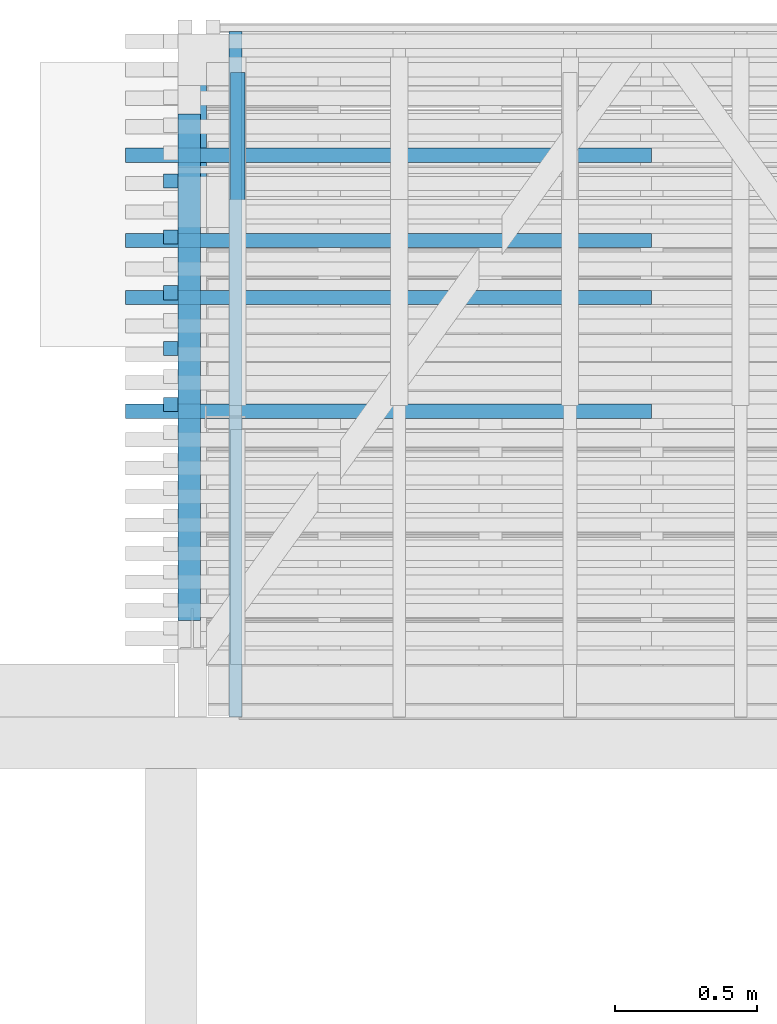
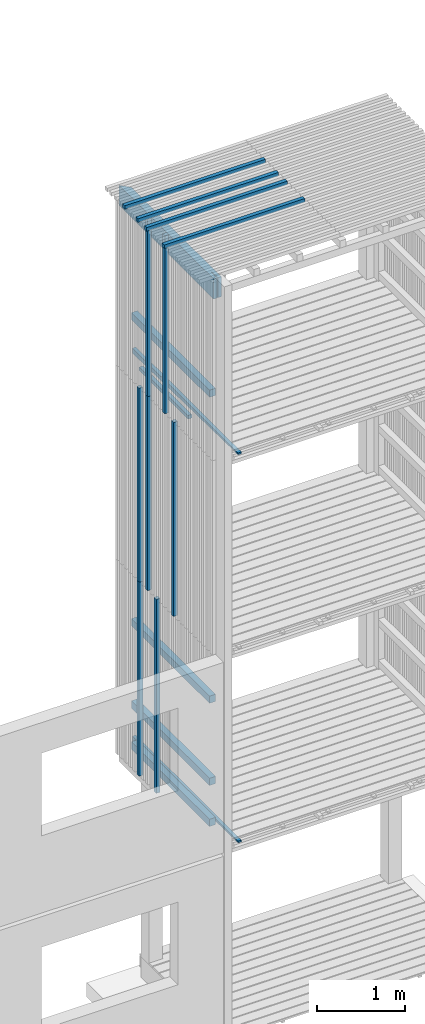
# One storey, part 39 of 182: 19 beams.
"""IFC2X3 building model written with IfcOpenShell, lengths in metres."""

from ifc_helpers import new_model, si_unit, frame, origin, place, context, project, spatial, faceted_brep, element, save


model = new_model("IFC2X3")

# Units and contexts
model_context = context("Model", 3, precision=1e-06, world=origin())
ifc_project = project(units=[si_unit("LENGTHUNIT", "METRE"), si_unit("PLANEANGLEUNIT", "RADIAN")], contexts=[model_context])

# Site, building, storey
site = spatial("IfcSite", under=ifc_project, CompositionType="ELEMENT")
building = spatial("IfcBuilding", under=site, CompositionType="ELEMENT")
storey = spatial("IfcBuildingStorey", under=building, Name="vs", CompositionType="ELEMENT", Elevation=-0.85)

# Beams
placement = place(None, origin())
beam_1_placement = place(placement, frame((13.364197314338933, 10.810077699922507, 8.80124999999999), z_axis=(0.0, 0.0, 1.0), x_axis=(0.0, 1.0, 0.0)))
element("IfcBeam", 1, at=beam_1_placement, inside=storey, Name="Support bardage", context=model_context, shape_type="Brep", body=[
    faceted_brep([(1.779999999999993, 0.039999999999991, -0.050000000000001), (1.779999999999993, 0.039999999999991, 0.050000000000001), (1.779999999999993, -0.040000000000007, 0.050000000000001), (1.779999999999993, -0.040000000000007, -0.050000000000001), (1.779999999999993, -0.040000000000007, 0.050000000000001), (1.779999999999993, 0.039999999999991, 0.050000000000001), (-4e-15, 0.039999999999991, 0.050000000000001), (-4e-15, -0.040000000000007, 0.050000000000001), (-4e-15, 0.039999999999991, 0.050000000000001), (1.779999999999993, 0.039999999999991, 0.050000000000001), (1.779999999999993, 0.039999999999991, -0.050000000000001), (-4e-15, 0.039999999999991, -0.050000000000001), (1.779999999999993, -0.040000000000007, -0.050000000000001), (1.779999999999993, -0.040000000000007, 0.050000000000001), (-4e-15, -0.040000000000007, 0.050000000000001), (-4e-15, -0.040000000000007, -0.050000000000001), (-4e-15, 0.039999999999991, -0.050000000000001), (1.779999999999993, 0.039999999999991, -0.050000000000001), (1.779999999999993, -0.040000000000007, -0.050000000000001), (-4e-15, -0.040000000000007, -0.050000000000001), (-4e-15, 0.039999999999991, 0.050000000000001), (-4e-15, 0.039999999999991, -0.050000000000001), (-4e-15, -0.040000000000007, -0.050000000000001), (-4e-15, -0.040000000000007, 0.050000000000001)], [[[0, 1, 2, 3]], [[4, 5, 6, 7]], [[8, 9, 10, 11]], [[12, 13, 14, 15]], [[16, 17, 18, 19]], [[20, 21, 22, 23]]]),
])
beam_2_placement = place(placement, frame((13.299197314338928, 12.354168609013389, 5.274999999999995), z_axis=(1.0, 0.0, 0.0), x_axis=(0.0, 0.0, 1.0)))
element("IfcBeam", 2, at=beam_2_placement, inside=storey, Name="Bardage", context=model_context, shape_type="Brep", body=[
    faceted_brep([(2.699999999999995, 0.025000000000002, 0.025000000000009), (2.699999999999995, -0.024999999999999, 0.025000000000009), (2.699999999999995, -0.024999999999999, -0.025000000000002), (2.699999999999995, 0.025000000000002, -0.025000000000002), (1e-15, 0.025000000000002, 0.025000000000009), (2.699999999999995, 0.025000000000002, 0.025000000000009), (2.699999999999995, 0.025000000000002, -0.025000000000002), (1e-15, 0.025000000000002, -0.025000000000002), (1e-15, -0.024999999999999, 0.025000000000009), (1e-15, 0.025000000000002, 0.025000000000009), (1e-15, 0.025000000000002, -0.025000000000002), (1e-15, -0.024999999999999, -0.025000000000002), (1e-15, 0.025000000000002, 0.025000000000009), (1e-15, -0.024999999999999, 0.025000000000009), (2.699999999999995, -0.024999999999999, 0.025000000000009), (2.699999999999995, 0.025000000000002, 0.025000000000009), (1e-15, -0.024999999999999, 0.025000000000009), (1e-15, -0.024999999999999, -0.025000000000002), (2.699999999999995, -0.024999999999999, -0.025000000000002), (2.699999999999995, -0.024999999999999, 0.025000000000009), (1e-15, -0.024999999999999, -0.025000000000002), (1e-15, 0.025000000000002, -0.025000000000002), (2.699999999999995, 0.025000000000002, -0.025000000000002), (2.699999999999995, -0.024999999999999, -0.025000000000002)], [[[0, 1, 2, 3]], [[4, 5, 6, 7]], [[8, 9, 10, 11]], [[12, 13, 14, 15]], [[16, 17, 18, 19]], [[20, 21, 22, 23]]]),
])
beam_3_placement = place(placement, frame((14.989197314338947, 12.145077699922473, 10.47999999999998), z_axis=(0.0, 0.0, 1.0), x_axis=(-1.0, 0.0, 0.0)))
element("IfcBeam", 3, at=beam_3_placement, inside=storey, Name="Bardage", context=model_context, shape_type="Brep", body=[
    faceted_brep([(1.850000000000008, -0.024999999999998, -0.024999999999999), (1.850000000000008, -0.024999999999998, 0.025000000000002), (-1e-15, -0.025000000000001, 0.025000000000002), (-1e-15, -0.025000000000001, -0.024999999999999), (1.850000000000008, -0.024999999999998, 0.025000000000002), (1.850000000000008, -0.024999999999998, -0.024999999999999), (1.850000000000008, 0.024999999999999, -0.024999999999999), (1.850000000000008, 0.024999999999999, 0.025000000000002), (1.850000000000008, 0.024999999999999, -0.024999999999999), (1.850000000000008, -0.024999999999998, -0.024999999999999), (-1e-15, -0.025000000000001, -0.024999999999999), (-1e-15, 0.024999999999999, -0.024999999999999), (1.850000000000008, 0.024999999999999, 0.025000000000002), (1.850000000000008, 0.024999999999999, -0.024999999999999), (-1e-15, 0.024999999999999, -0.024999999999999), (-1e-15, 0.024999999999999, 0.025000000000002), (-1e-15, -0.025000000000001, 0.025000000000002), (1.850000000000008, -0.024999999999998, 0.025000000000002), (1.850000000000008, 0.024999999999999, 0.025000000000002), (-1e-15, 0.024999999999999, 0.025000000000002), (-1e-15, -0.025000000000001, -0.024999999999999), (-1e-15, -0.025000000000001, 0.025000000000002), (-1e-15, 0.024999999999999, 0.025000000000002), (-1e-15, 0.024999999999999, -0.024999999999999)], [[[0, 1, 2, 3]], [[4, 5, 6, 7]], [[8, 9, 10, 11]], [[12, 13, 14, 15]], [[16, 17, 18, 19]], [[20, 21, 22, 23]]]),
])
beam_4_placement = place(placement, frame((14.989197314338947, 11.945077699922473, 10.47999999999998), z_axis=(0.0, 0.0, 1.0), x_axis=(-1.0, 0.0, 0.0)))
element("IfcBeam", 4, at=beam_4_placement, inside=storey, Name="Bardage", context=model_context, shape_type="Brep", body=[
    faceted_brep([(1.850000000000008, -0.025000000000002, -0.024999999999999), (1.850000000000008, -0.025000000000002, 0.025000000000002), (-1e-15, -0.025000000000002, 0.025000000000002), (-1e-15, -0.025000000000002, -0.024999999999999), (1.850000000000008, -0.025000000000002, 0.025000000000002), (1.850000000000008, -0.025000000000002, -0.024999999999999), (1.850000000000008, 0.025000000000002, -0.024999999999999), (1.850000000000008, 0.025000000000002, 0.025000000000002), (1.850000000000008, 0.025000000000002, -0.024999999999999), (1.850000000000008, -0.025000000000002, -0.024999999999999), (-1e-15, -0.025000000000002, -0.024999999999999), (-1e-15, 0.024999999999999, -0.024999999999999), (1.850000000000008, 0.025000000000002, 0.025000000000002), (1.850000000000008, 0.025000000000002, -0.024999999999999), (-1e-15, 0.024999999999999, -0.024999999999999), (-1e-15, 0.024999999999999, 0.025000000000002), (-1e-15, -0.025000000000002, 0.025000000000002), (1.850000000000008, -0.025000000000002, 0.025000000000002), (1.850000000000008, 0.025000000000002, 0.025000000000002), (-1e-15, 0.024999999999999, 0.025000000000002), (-1e-15, -0.025000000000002, -0.024999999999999), (-1e-15, -0.025000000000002, 0.025000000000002), (-1e-15, 0.024999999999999, 0.025000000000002), (-1e-15, 0.024999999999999, -0.024999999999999)], [[[0, 1, 2, 3]], [[4, 5, 6, 7]], [[8, 9, 10, 11]], [[12, 13, 14, 15]], [[16, 17, 18, 19]], [[20, 21, 22, 23]]]),
])
beam_5_placement = place(placement, frame((14.989197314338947, 11.545077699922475, 10.47999999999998), z_axis=(0.0, 0.0, 1.0), x_axis=(-1.0, -2e-15, 0.0)))
element("IfcBeam", 5, at=beam_5_placement, inside=storey, Name="Bardage", context=model_context, shape_type="Brep", body=[
    faceted_brep([(1.850000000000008, -0.025000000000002, -0.024999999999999), (1.850000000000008, -0.025000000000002, 0.025000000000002), (-1e-15, -0.024999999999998, 0.025000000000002), (-1e-15, -0.024999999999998, -0.024999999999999), (1.850000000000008, -0.025000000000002, 0.025000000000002), (1.850000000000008, -0.025000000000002, -0.024999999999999), (1.850000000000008, 0.024999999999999, -0.024999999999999), (1.850000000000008, 0.024999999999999, 0.025000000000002), (1.850000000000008, 0.024999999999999, -0.024999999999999), (1.850000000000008, -0.025000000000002, -0.024999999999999), (-1e-15, -0.024999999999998, -0.024999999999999), (0.0, 0.025000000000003, -0.024999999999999), (1.850000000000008, 0.024999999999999, 0.025000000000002), (1.850000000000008, 0.024999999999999, -0.024999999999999), (0.0, 0.025000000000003, -0.024999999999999), (0.0, 0.025000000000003, 0.025000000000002), (-1e-15, -0.024999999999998, 0.025000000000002), (1.850000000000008, -0.025000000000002, 0.025000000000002), (1.850000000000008, 0.024999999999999, 0.025000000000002), (0.0, 0.025000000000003, 0.025000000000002), (-1e-15, -0.024999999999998, -0.024999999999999), (-1e-15, -0.024999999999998, 0.025000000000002), (0.0, 0.025000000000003, 0.025000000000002), (0.0, 0.025000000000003, -0.024999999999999)], [[[0, 1, 2, 3]], [[4, 5, 6, 7]], [[8, 9, 10, 11]], [[12, 13, 14, 15]], [[16, 17, 18, 19]], [[20, 21, 22, 23]]]),
])
beam_6_placement = place(placement, frame((13.364197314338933, 10.810077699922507, 4.543749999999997), z_axis=(0.0, 0.0, 1.0), x_axis=(0.0, 1.0, 0.0)))
element("IfcBeam", 6, at=beam_6_placement, inside=storey, Name="Support bardage", context=model_context, shape_type="Brep", body=[
    faceted_brep([(1.779999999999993, 0.039999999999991, -0.050000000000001), (1.779999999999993, 0.039999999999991, 0.050000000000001), (1.779999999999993, -0.040000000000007, 0.050000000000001), (1.779999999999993, -0.040000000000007, -0.050000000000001), (1.779999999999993, -0.040000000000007, 0.050000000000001), (1.779999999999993, 0.039999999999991, 0.050000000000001), (-4e-15, 0.039999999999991, 0.050000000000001), (-4e-15, -0.040000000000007, 0.050000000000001), (-4e-15, 0.039999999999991, 0.050000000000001), (1.779999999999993, 0.039999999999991, 0.050000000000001), (1.779999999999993, 0.039999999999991, -0.050000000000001), (-4e-15, 0.039999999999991, -0.050000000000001), (1.779999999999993, -0.040000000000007, -0.050000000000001), (1.779999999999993, -0.040000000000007, 0.050000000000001), (-4e-15, -0.040000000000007, 0.050000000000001), (-4e-15, -0.040000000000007, -0.050000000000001), (-4e-15, 0.039999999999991, -0.050000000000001), (1.779999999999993, 0.039999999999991, -0.050000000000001), (1.779999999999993, -0.040000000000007, -0.050000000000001), (-4e-15, -0.040000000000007, -0.050000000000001), (-4e-15, 0.039999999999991, 0.050000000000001), (-4e-15, 0.039999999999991, -0.050000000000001), (-4e-15, -0.040000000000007, -0.050000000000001), (-4e-15, -0.040000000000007, 0.050000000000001)], [[[0, 1, 2, 3]], [[4, 5, 6, 7]], [[8, 9, 10, 11]], [[12, 13, 14, 15]], [[16, 17, 18, 19]], [[20, 21, 22, 23]]]),
])
beam_7_placement = place(placement, frame((13.534197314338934, 12.735077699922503, 7.91739999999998), z_axis=(0.0, 0.0, 1.0), x_axis=(0.0, -1.0, 0.0)))
element("IfcBeam", 7, at=beam_7_placement, inside=storey, Name="Calage", context=model_context, shape_type="Brep", body=[
    faceted_brep([(2e-15, 0.025000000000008, -0.025), (2e-15, -0.024999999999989, -0.025), (2e-15, -0.024999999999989, 0.024999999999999), (2e-15, 0.025000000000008, 0.024999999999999), (1.115000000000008, -0.024999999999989, 0.024999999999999), (1.115000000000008, -0.024999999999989, -0.025), (1.115000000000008, 0.025000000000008, -0.025), (1.115000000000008, 0.025000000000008, 0.024999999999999), (2e-15, -0.024999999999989, 0.024999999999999), (2e-15, -0.024999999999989, -0.025), (1.115000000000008, -0.024999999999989, -0.025), (1.115000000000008, -0.024999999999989, 0.024999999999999), (1.115000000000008, -0.024999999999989, -0.025), (2e-15, -0.024999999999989, -0.025), (2e-15, 0.025000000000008, -0.025), (1.115000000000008, 0.025000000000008, -0.025), (1.115000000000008, 0.025000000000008, -0.025), (2e-15, 0.025000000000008, -0.025), (2e-15, 0.025000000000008, 0.024999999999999), (1.115000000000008, 0.025000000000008, 0.024999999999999), (1.115000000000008, 0.025000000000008, 0.024999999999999), (2e-15, 0.025000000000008, 0.024999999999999), (2e-15, -0.024999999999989, 0.024999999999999), (1.115000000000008, -0.024999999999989, 0.024999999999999)], [[[0, 1, 2, 3]], [[4, 5, 6, 7]], [[8, 9, 10, 11]], [[12, 13, 14, 15]], [[16, 17, 18, 19]], [[20, 21, 22, 23]]]),
])
beam_8_placement = place(placement, frame((13.526697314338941, 10.4700776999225, 8.084400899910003), z_axis=(0.0, 0.0, 1.0), x_axis=(0.0, 1.0, 0.0)))
element("IfcBeam", 8, at=beam_8_placement, inside=storey, Name="Calage", context=model_context, shape_type="Brep", body=[
    faceted_brep([(2.41000000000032, -0.022499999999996, -0.035599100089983), (0.0, -0.022499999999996, 0.012600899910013), (0.0, 0.022500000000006, 0.012600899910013), (2.41000000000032, 0.022500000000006, -0.035599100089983), (0.0, 0.022500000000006, 0.035599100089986), (0.0, 0.022500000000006, 0.012600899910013), (0.0, -0.022499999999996, 0.012600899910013), (0.0, -0.022499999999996, 0.035599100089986), (2.41000000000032, 0.022500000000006, -0.035599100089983), (0.0, 0.022500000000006, 0.012600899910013), (0.0, 0.022500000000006, 0.035599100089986), (2.41000000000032, 0.022500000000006, 0.035599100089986), (2.41000000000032, -0.022499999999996, 0.035599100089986), (0.0, -0.022499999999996, 0.035599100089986), (0.0, -0.022499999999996, 0.012600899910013), (2.41000000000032, -0.022499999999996, -0.035599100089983), (2.41000000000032, 0.022500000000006, 0.035599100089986), (0.0, 0.022500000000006, 0.035599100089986), (0.0, -0.022499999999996, 0.035599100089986), (2.41000000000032, -0.022499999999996, 0.035599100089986), (2.41000000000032, 0.022500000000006, -0.035599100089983), (2.41000000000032, 0.022500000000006, 0.035599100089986), (2.41000000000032, -0.022499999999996, 0.035599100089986), (2.41000000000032, -0.022499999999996, -0.035599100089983)], [[[0, 1, 2, 3]], [[4, 5, 6, 7]], [[8, 9, 10, 11]], [[12, 13, 14, 15]], [[16, 17, 18, 19]], [[20, 21, 22, 23]]]),
])
beam_9_placement = place(placement, frame((13.364197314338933, 10.810077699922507, 3.401250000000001), z_axis=(0.0, 0.0, 1.0), x_axis=(0.0, 1.0, 0.0)))
element("IfcBeam", 9, at=beam_9_placement, inside=storey, Name="Support bardage", context=model_context, shape_type="Brep", body=[
    faceted_brep([(1.779999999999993, 0.039999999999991, -0.050000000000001), (1.779999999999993, 0.039999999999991, 0.05), (1.779999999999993, -0.040000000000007, 0.05), (1.779999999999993, -0.040000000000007, -0.050000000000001), (1.779999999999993, -0.040000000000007, 0.05), (1.779999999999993, 0.039999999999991, 0.05), (-4e-15, 0.039999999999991, 0.05), (-4e-15, -0.040000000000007, 0.05), (-4e-15, 0.039999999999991, 0.05), (1.779999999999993, 0.039999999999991, 0.05), (1.779999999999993, 0.039999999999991, -0.050000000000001), (-4e-15, 0.039999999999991, -0.050000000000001), (1.779999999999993, -0.040000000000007, -0.050000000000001), (1.779999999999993, -0.040000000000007, 0.05), (-4e-15, -0.040000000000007, 0.05), (-4e-15, -0.040000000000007, -0.050000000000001), (-4e-15, 0.039999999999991, -0.050000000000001), (1.779999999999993, 0.039999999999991, -0.050000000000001), (1.779999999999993, -0.040000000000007, -0.050000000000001), (-4e-15, -0.040000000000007, -0.050000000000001), (-4e-15, 0.039999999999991, 0.05), (-4e-15, 0.039999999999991, -0.050000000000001), (-4e-15, -0.040000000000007, -0.050000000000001), (-4e-15, -0.040000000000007, 0.05)], [[[0, 1, 2, 3]], [[4, 5, 6, 7]], [[8, 9, 10, 11]], [[12, 13, 14, 15]], [[16, 17, 18, 19]], [[20, 21, 22, 23]]]),
])
beam_10_placement = place(placement, frame((14.989197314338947, 12.445077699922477, 10.47999999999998), z_axis=(0.0, 0.0, 1.0), x_axis=(-1.0, -2e-15, 0.0)))
element("IfcBeam", 10, at=beam_10_placement, inside=storey, Name="Bardage", context=model_context, shape_type="Brep", body=[
    faceted_brep([(1.850000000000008, -0.025000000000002, -0.024999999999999), (1.850000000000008, -0.025000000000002, 0.025000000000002), (-1e-15, -0.024999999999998, 0.025000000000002), (-1e-15, -0.024999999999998, -0.024999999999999), (1.850000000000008, -0.025000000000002, 0.025000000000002), (1.850000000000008, -0.025000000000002, -0.024999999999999), (1.850000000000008, 0.025000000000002, -0.024999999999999), (1.850000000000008, 0.025000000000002, 0.025000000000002), (1.850000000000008, 0.025000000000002, -0.024999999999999), (1.850000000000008, -0.025000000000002, -0.024999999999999), (-1e-15, -0.024999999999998, -0.024999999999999), (0.0, 0.025000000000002, -0.024999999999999), (1.850000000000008, 0.025000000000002, 0.025000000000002), (1.850000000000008, 0.025000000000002, -0.024999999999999), (0.0, 0.025000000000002, -0.024999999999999), (0.0, 0.025000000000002, 0.025000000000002), (-1e-15, -0.024999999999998, 0.025000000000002), (1.850000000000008, -0.025000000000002, 0.025000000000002), (1.850000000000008, 0.025000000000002, 0.025000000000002), (0.0, 0.025000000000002, 0.025000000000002), (-1e-15, -0.024999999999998, -0.024999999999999), (-1e-15, -0.024999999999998, 0.025000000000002), (0.0, 0.025000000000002, 0.025000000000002), (0.0, 0.025000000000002, -0.024999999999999)], [[[0, 1, 2, 3]], [[4, 5, 6, 7]], [[8, 9, 10, 11]], [[12, 13, 14, 15]], [[16, 17, 18, 19]], [[20, 21, 22, 23]]]),
])
beam_11_placement = place(placement, frame((13.299197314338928, 11.96144133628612, 2.575000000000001), z_axis=(1.0, 0.0, 0.0), x_axis=(0.0, 0.0, 1.0)))
element("IfcBeam", 11, at=beam_11_placement, inside=storey, Name="Bardage", context=model_context, shape_type="Brep", body=[
    faceted_brep([(2.699961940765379, -0.024999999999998, 0.025000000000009), (2.699961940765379, -0.024999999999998, -0.025000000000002), (2.699961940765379, 0.024999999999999, -0.025000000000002), (2.699961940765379, 0.024999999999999, 0.025000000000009), (0.0, -0.024999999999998, 0.025000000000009), (2.699961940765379, -0.024999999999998, 0.025000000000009), (2.699961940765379, 0.024999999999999, 0.025000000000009), (0.0, 0.024999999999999, 0.025000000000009), (0.0, -0.024999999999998, 0.025000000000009), (0.0, 0.024999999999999, 0.025000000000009), (0.0, 0.024999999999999, -0.025000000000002), (0.0, -0.024999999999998, -0.025000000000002), (0.0, -0.024999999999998, 0.025000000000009), (0.0, -0.024999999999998, -0.025000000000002), (2.699961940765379, -0.024999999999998, -0.025000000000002), (2.699961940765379, -0.024999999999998, 0.025000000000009), (0.0, -0.024999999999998, -0.025000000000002), (0.0, 0.024999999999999, -0.025000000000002), (2.699961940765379, 0.024999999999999, -0.025000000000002), (2.699961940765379, -0.024999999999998, -0.025000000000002), (0.0, 0.024999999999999, -0.025000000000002), (0.0, 0.024999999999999, 0.025000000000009), (2.699961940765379, 0.024999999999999, 0.025000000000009), (2.699961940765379, 0.024999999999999, -0.025000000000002)], [[[0, 1, 2, 3]], [[4, 5, 6, 7]], [[8, 9, 10, 11]], [[12, 13, 14, 15]], [[16, 17, 18, 19]], [[20, 21, 22, 23]]]),
])
beam_12_placement = place(placement, frame((13.299197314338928, 12.157804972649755, 5.274999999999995), z_axis=(1.0, 0.0, 0.0), x_axis=(0.0, 0.0, 1.0)))
element("IfcBeam", 12, at=beam_12_placement, inside=storey, Name="Bardage", context=model_context, shape_type="Brep", body=[
    faceted_brep([(2.699999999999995, 0.024999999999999, 0.025000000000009), (2.699999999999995, -0.024999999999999, 0.025000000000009), (2.699999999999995, -0.024999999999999, -0.025000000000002), (2.699999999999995, 0.024999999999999, -0.025000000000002), (1e-15, 0.024999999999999, 0.025000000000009), (2.699999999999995, 0.024999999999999, 0.025000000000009), (2.699999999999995, 0.024999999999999, -0.025000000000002), (1e-15, 0.024999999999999, -0.025000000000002), (1e-15, -0.024999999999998, 0.025000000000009), (1e-15, 0.024999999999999, 0.025000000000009), (1e-15, 0.024999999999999, -0.025000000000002), (1e-15, -0.024999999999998, -0.025000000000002), (1e-15, 0.024999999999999, 0.025000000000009), (1e-15, -0.024999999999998, 0.025000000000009), (2.699999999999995, -0.024999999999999, 0.025000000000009), (2.699999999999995, 0.024999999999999, 0.025000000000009), (1e-15, -0.024999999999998, 0.025000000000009), (1e-15, -0.024999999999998, -0.025000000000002), (2.699999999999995, -0.024999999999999, -0.025000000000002), (2.699999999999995, -0.024999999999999, 0.025000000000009), (1e-15, -0.024999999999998, -0.025000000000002), (1e-15, 0.024999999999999, -0.025000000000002), (2.699999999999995, 0.024999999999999, -0.025000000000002), (2.699999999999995, -0.024999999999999, -0.025000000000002)], [[[0, 1, 2, 3]], [[4, 5, 6, 7]], [[8, 9, 10, 11]], [[12, 13, 14, 15]], [[16, 17, 18, 19]], [[20, 21, 22, 23]]]),
])
beam_13_placement = place(placement, frame((13.526697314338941, 10.4700776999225, 2.684400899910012), z_axis=(0.0, 0.0, 1.0), x_axis=(0.0, 1.0, 0.0)))
element("IfcBeam", 13, at=beam_13_placement, inside=storey, Name="Calage", context=model_context, shape_type="Brep", body=[
    faceted_brep([(2.41000000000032, -0.022499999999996, -0.035599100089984), (0.0, -0.022499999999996, 0.012600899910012), (0.0, 0.022500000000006, 0.012600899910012), (2.41000000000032, 0.022500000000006, -0.035599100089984), (0.0, 0.022500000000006, 0.035599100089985), (0.0, 0.022500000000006, 0.012600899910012), (0.0, -0.022499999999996, 0.012600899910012), (0.0, -0.022499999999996, 0.035599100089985), (2.41000000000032, 0.022500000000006, -0.035599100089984), (0.0, 0.022500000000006, 0.012600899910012), (0.0, 0.022500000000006, 0.035599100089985), (2.41000000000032, 0.022500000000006, 0.035599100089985), (2.41000000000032, -0.022499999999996, 0.035599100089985), (0.0, -0.022499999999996, 0.035599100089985), (0.0, -0.022499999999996, 0.012600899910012), (2.41000000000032, -0.022499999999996, -0.035599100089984), (2.41000000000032, 0.022500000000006, 0.035599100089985), (0.0, 0.022500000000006, 0.035599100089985), (0.0, -0.022499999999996, 0.035599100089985), (2.41000000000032, -0.022499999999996, 0.035599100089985), (2.41000000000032, 0.022500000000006, -0.035599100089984), (2.41000000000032, 0.022500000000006, 0.035599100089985), (2.41000000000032, -0.022499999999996, 0.035599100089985), (2.41000000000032, -0.022499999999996, -0.035599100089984)], [[[0, 1, 2, 3]], [[4, 5, 6, 7]], [[8, 9, 10, 11]], [[12, 13, 14, 15]], [[16, 17, 18, 19]], [[20, 21, 22, 23]]]),
])
beam_14_placement = place(placement, frame((13.299197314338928, 11.765077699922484, 7.974999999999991), z_axis=(1.0, 0.0, 0.0), x_axis=(0.0, 1e-15, 1.0)))
element("IfcBeam", 14, at=beam_14_placement, inside=storey, Name="Bardage", context=model_context, shape_type="Brep", body=[
    faceted_brep([(0.0, -0.025000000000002, 0.025000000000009), (0.0, 0.024999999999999, 0.025000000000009), (0.0, 0.024999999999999, -0.025000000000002), (0.0, -0.025000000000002, -0.025000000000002), (2.479999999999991, 0.025000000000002, -0.025000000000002), (2.479999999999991, 0.025000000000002, 0.025000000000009), (2.479999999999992, -0.025000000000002, 0.025000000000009), (2.479999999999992, -0.025000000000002, -0.025000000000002), (0.0, 0.024999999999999, 0.025000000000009), (0.0, -0.025000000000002, 0.025000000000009), (2.479999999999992, -0.025000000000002, 0.025000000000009), (2.479999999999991, 0.025000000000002, 0.025000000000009), (0.0, 0.024999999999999, -0.025000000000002), (0.0, 0.024999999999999, 0.025000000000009), (2.479999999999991, 0.025000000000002, 0.025000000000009), (2.479999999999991, 0.025000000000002, -0.025000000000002), (0.0, -0.025000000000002, -0.025000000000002), (0.0, 0.024999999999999, -0.025000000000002), (2.479999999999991, 0.025000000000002, -0.025000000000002), (2.479999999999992, -0.025000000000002, -0.025000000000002), (2.479999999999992, -0.025000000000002, 0.025000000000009), (0.0, -0.025000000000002, 0.025000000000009), (0.0, -0.025000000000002, -0.025000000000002), (2.479999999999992, -0.025000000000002, -0.025000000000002)], [[[0, 1, 2, 3]], [[4, 5, 6, 7]], [[8, 9, 10, 11]], [[12, 13, 14, 15]], [[16, 17, 18, 19]], [[20, 21, 22, 23]]]),
])
beam_15_placement = place(placement, frame((13.299197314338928, 12.354168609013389, 2.575000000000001), z_axis=(1.0, 0.0, 0.0), x_axis=(0.0, 0.0, 1.0)))
element("IfcBeam", 15, at=beam_15_placement, inside=storey, Name="Bardage", context=model_context, shape_type="Brep", body=[
    faceted_brep([(2.699961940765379, -0.024999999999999, 0.025000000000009), (2.699961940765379, -0.024999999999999, -0.025000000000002), (2.699961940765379, 0.025000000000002, -0.025000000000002), (2.699961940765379, 0.025000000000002, 0.025000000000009), (0.0, -0.024999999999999, 0.025000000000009), (2.699961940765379, -0.024999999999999, 0.025000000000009), (2.699961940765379, 0.025000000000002, 0.025000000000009), (0.0, 0.025000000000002, 0.025000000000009), (0.0, -0.024999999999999, 0.025000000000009), (0.0, 0.025000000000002, 0.025000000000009), (0.0, 0.025000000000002, -0.025000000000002), (0.0, -0.024999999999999, -0.025000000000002), (0.0, -0.024999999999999, 0.025000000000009), (0.0, -0.024999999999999, -0.025000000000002), (2.699961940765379, -0.024999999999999, -0.025000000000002), (2.699961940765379, -0.024999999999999, 0.025000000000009), (0.0, -0.024999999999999, -0.025000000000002), (0.0, 0.025000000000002, -0.025000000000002), (2.699961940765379, 0.025000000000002, -0.025000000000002), (2.699961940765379, -0.024999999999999, -0.025000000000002), (0.0, 0.025000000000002, -0.025000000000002), (0.0, 0.025000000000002, 0.025000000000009), (2.699961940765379, 0.025000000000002, 0.025000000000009), (2.699961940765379, 0.025000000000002, -0.025000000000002)], [[[0, 1, 2, 3]], [[4, 5, 6, 7]], [[8, 9, 10, 11]], [[12, 13, 14, 15]], [[16, 17, 18, 19]], [[20, 21, 22, 23]]]),
])
beam_16_placement = place(placement, frame((13.299197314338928, 12.157804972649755, 7.974999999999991), z_axis=(1.0, 0.0, 0.0), x_axis=(0.0, 0.0, 1.0)))
element("IfcBeam", 16, at=beam_16_placement, inside=storey, Name="Bardage", context=model_context, shape_type="Brep", body=[
    faceted_brep([(0.0, -0.024999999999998, 0.025000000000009), (0.0, 0.024999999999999, 0.025000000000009), (0.0, 0.024999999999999, -0.025000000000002), (0.0, -0.024999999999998, -0.025000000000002), (2.479999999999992, 0.024999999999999, -0.025000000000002), (2.479999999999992, 0.024999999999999, 0.025000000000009), (2.479999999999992, -0.024999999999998, 0.025000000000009), (2.479999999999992, -0.024999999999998, -0.025000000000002), (0.0, 0.024999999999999, 0.025000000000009), (0.0, -0.024999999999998, 0.025000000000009), (2.479999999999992, -0.024999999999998, 0.025000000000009), (2.479999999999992, 0.024999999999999, 0.025000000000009), (0.0, 0.024999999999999, -0.025000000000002), (0.0, 0.024999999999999, 0.025000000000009), (2.479999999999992, 0.024999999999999, 0.025000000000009), (2.479999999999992, 0.024999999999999, -0.025000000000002), (0.0, -0.024999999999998, -0.025000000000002), (0.0, 0.024999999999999, -0.025000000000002), (2.479999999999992, 0.024999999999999, -0.025000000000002), (2.479999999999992, -0.024999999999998, -0.025000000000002), (2.479999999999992, -0.024999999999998, 0.025000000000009), (0.0, -0.024999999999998, 0.025000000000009), (0.0, -0.024999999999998, -0.025000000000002), (2.479999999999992, -0.024999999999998, -0.025000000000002)], [[[0, 1, 2, 3]], [[4, 5, 6, 7]], [[8, 9, 10, 11]], [[12, 13, 14, 15]], [[16, 17, 18, 19]], [[20, 21, 22, 23]]]),
])
beam_17_placement = place(placement, frame((13.364197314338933, 10.810077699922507, 2.830000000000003), z_axis=(0.0, 0.0, 1.0), x_axis=(0.0, 1.0, 0.0)))
element("IfcBeam", 17, at=beam_17_placement, inside=storey, Name="Support bardage", context=model_context, shape_type="Brep", body=[
    faceted_brep([(1.779999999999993, 0.039999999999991, -0.050000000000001), (1.779999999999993, 0.039999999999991, 0.05), (1.779999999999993, -0.040000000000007, 0.05), (1.779999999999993, -0.040000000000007, -0.050000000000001), (1.779999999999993, -0.040000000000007, 0.05), (1.779999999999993, 0.039999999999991, 0.05), (-4e-15, 0.039999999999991, 0.05), (-4e-15, -0.040000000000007, 0.05), (-4e-15, 0.039999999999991, 0.05), (1.779999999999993, 0.039999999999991, 0.05), (1.779999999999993, 0.039999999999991, -0.050000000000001), (-4e-15, 0.039999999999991, -0.050000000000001), (1.779999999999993, -0.040000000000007, -0.050000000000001), (1.779999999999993, -0.040000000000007, 0.05), (-4e-15, -0.040000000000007, 0.05), (-4e-15, -0.040000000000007, -0.050000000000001), (-4e-15, 0.039999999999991, -0.050000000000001), (1.779999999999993, 0.039999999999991, -0.050000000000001), (1.779999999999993, -0.040000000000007, -0.050000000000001), (-4e-15, -0.040000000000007, -0.050000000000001), (-4e-15, 0.039999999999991, 0.05), (-4e-15, 0.039999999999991, -0.050000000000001), (-4e-15, -0.040000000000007, -0.050000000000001), (-4e-15, -0.040000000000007, 0.05)], [[[0, 1, 2, 3]], [[4, 5, 6, 7]], [[8, 9, 10, 11]], [[12, 13, 14, 15]], [[16, 17, 18, 19]], [[20, 21, 22, 23]]]),
])
beam_18_placement = place(placement, frame((13.299197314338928, 11.568714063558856, 5.274999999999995), z_axis=(1.0, 0.0, 0.0), x_axis=(0.0, 0.0, 1.0)))
element("IfcBeam", 18, at=beam_18_placement, inside=storey, Name="Bardage", context=model_context, shape_type="Brep", body=[
    faceted_brep([(2.699999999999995, 0.025000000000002, 0.025000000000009), (2.699999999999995, -0.024999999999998, 0.025000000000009), (2.699999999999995, -0.024999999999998, -0.025000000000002), (2.699999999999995, 0.025000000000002, -0.025000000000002), (1e-15, 0.025000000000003, 0.025000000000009), (2.699999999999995, 0.025000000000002, 0.025000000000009), (2.699999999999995, 0.025000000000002, -0.025000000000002), (1e-15, 0.025000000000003, -0.025000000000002), (1e-15, -0.024999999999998, 0.025000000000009), (1e-15, 0.025000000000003, 0.025000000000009), (1e-15, 0.025000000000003, -0.025000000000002), (1e-15, -0.024999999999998, -0.025000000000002), (1e-15, 0.025000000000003, 0.025000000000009), (1e-15, -0.024999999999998, 0.025000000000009), (2.699999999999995, -0.024999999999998, 0.025000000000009), (2.699999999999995, 0.025000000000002, 0.025000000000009), (1e-15, -0.024999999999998, 0.025000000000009), (1e-15, -0.024999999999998, -0.025000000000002), (2.699999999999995, -0.024999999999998, -0.025000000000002), (2.699999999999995, -0.024999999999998, 0.025000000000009), (1e-15, -0.024999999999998, -0.025000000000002), (1e-15, 0.025000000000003, -0.025000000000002), (2.699999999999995, 0.025000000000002, -0.025000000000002), (2.699999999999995, -0.024999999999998, -0.025000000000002)], [[[0, 1, 2, 3]], [[4, 5, 6, 7]], [[8, 9, 10, 11]], [[12, 13, 14, 15]], [[16, 17, 18, 19]], [[20, 21, 22, 23]]]),
])
beam_19_placement = place(placement, frame((13.374197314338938, 10.715077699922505, 10.314999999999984), z_axis=(0.0, 0.0, 1.0), x_axis=(0.0, 1.0, 0.0)))
element("IfcBeam", 19, at=beam_19_placement, inside=storey, Name="Sommier", context=model_context, shape_type="Brep", body=[
    faceted_brep([(0.0, -0.004000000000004, 0.140000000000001), (0.0, -0.049999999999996, 0.140000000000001), (2.054999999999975, -0.049999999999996, 0.140000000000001), (2.154999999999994, 0.049999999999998, 0.140000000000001), (0.0, 0.049999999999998, 0.140000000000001), (0.0, 0.003999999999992, 0.140000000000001), (0.137, 0.003999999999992, 0.140000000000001), (0.137, -0.004000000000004, 0.140000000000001), (2.054999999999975, -0.049999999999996, -0.140000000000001), (2.054999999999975, -0.049999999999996, 0.140000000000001), (0.0, -0.049999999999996, 0.140000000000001), (0.0, -0.049999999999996, -0.140000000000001), (2.054999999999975, -0.049999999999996, 0.140000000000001), (2.054999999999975, -0.049999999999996, -0.140000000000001), (2.154999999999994, 0.049999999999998, -0.140000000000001), (2.154999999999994, 0.049999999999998, 0.140000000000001), (0.0, 0.049999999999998, 0.140000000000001), (2.154999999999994, 0.049999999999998, 0.140000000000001), (2.154999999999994, 0.049999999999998, -0.140000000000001), (0.0, 0.049999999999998, -0.140000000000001), (0.0, 0.003999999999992, -0.140000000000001), (0.0, 0.003999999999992, 0.140000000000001), (0.0, 0.049999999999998, 0.140000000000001), (0.0, 0.049999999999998, -0.140000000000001), (0.0, -0.049999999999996, 0.140000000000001), (0.0, -0.004000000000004, 0.140000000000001), (0.0, -0.004000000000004, -0.140000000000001), (0.0, -0.049999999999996, -0.140000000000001), (0.0, 0.049999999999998, -0.140000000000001), (2.154999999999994, 0.049999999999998, -0.140000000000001), (2.054999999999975, -0.049999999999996, -0.140000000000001), (0.0, -0.049999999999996, -0.140000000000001), (0.0, -0.004000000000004, -0.140000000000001), (0.137, -0.004000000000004, -0.140000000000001), (0.137, 0.003999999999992, -0.140000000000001), (0.0, 0.003999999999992, -0.140000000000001), (0.137, 0.003999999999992, -0.140000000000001), (0.137, -0.004000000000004, -0.140000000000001), (0.137, -0.004000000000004, 0.140000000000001), (0.137, 0.003999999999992, 0.140000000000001), (0.0, -0.004000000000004, 0.140000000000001), (0.137, -0.004000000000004, 0.140000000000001), (0.137, -0.004000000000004, -0.140000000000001), (0.0, -0.004000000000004, -0.140000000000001), (0.137, 0.003999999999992, 0.140000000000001), (0.0, 0.003999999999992, 0.140000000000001), (0.0, 0.003999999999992, -0.140000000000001), (0.137, 0.003999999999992, -0.140000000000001)], [[[0, 1, 2, 3, 4, 5, 6, 7]], [[8, 9, 10, 11]], [[12, 13, 14, 15]], [[16, 17, 18, 19]], [[20, 21, 22, 23]], [[24, 25, 26, 27]], [[28, 29, 30, 31, 32, 33, 34, 35]], [[36, 37, 38, 39]], [[40, 41, 42, 43]], [[44, 45, 46, 47]]]),
])

save(model, "model.ifc")
